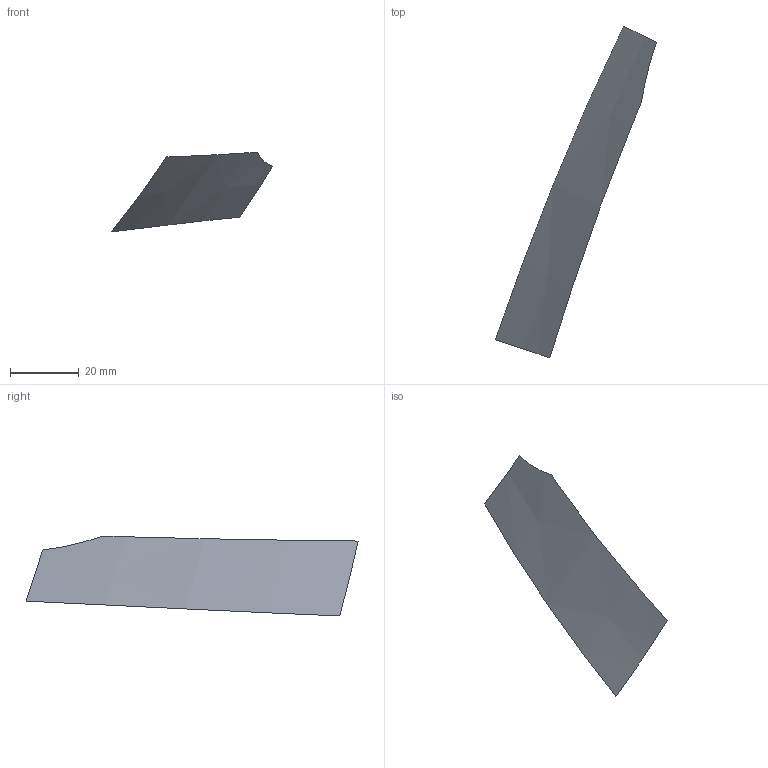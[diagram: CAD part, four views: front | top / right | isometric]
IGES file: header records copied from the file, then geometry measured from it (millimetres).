
Start section: START RECORD GO HERE
Global section: file name: s3.igs; native system: IBM CATIA IGES - CATIA SOLUTIONS V4RELEASE 1.9 REFRESH 01; preprocessor: CATIA SOLUTIONS V4RELEASE 1.9 REFRESH 01; author: cky; date: 990510.133752; units: millimetre
Bounding box: 47.02 x 96.92 x 23.34 mm (x, y, z)
Surface area: 2447.2 mm2 (no closed solid volume)
Topology: 0 solids, 0 shells, 1 faces, 17 edges, 17 vertices
Faces by surface type: bspline 1
